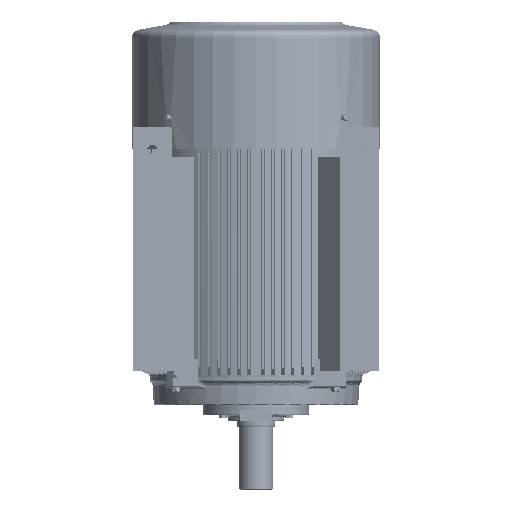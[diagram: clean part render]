
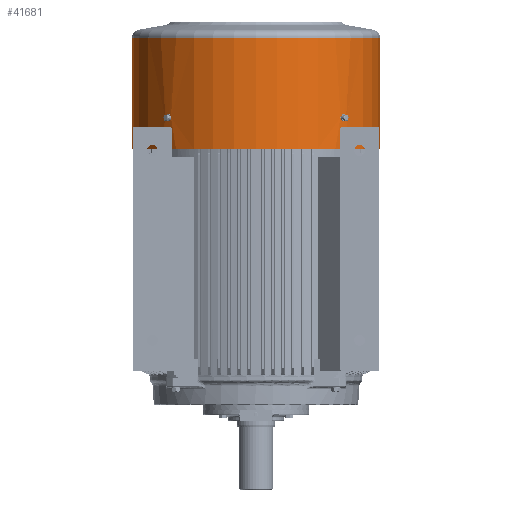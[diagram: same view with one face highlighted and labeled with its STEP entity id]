
A CAD part, left-side view. The second image highlights one B-rep face of the part: STEP entity #41681.
In plain terms, the highlighted cylindrical face has radius 273.5 mm (diameter 547 mm), a partial arc.
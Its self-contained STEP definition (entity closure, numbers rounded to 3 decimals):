
#1508=FACE_BOUND('',#62247,.T.);
#1509=FACE_BOUND('',#62248,.T.);
#1510=FACE_BOUND('',#62249,.T.);
#33891=B_SPLINE_CURVE_WITH_KNOTS('',3,(#332566,#332567,#332568,#332569,
#332570,#332571),.UNSPECIFIED.,.F.,.F.,(4,2,4),(0.,0.5,1.),
 .UNSPECIFIED.);
#33895=B_SPLINE_CURVE_WITH_KNOTS('',3,(#332604,#332605,#332606,#332607,
#332608,#332609),.UNSPECIFIED.,.F.,.F.,(4,2,4),(0.,0.5,1.),
 .UNSPECIFIED.);
#33989=B_SPLINE_CURVE_WITH_KNOTS('',3,(#333734,#333735,#333736,#333737,
#333738,#333739,#333740,#333741,#333742,#333743),.UNSPECIFIED.,.F.,.F.,
(4,2,2,2,4),(0.,0.25,0.5,0.75,1.),.UNSPECIFIED.);
#33990=B_SPLINE_CURVE_WITH_KNOTS('',3,(#333747,#333748,#333749,#333750,
#333751,#333752),.UNSPECIFIED.,.F.,.F.,(4,2,4),(0.,0.5,1.),
 .UNSPECIFIED.);
#33991=B_SPLINE_CURVE_WITH_KNOTS('',3,(#333755,#333756,#333757,#333758,
#333759,#333760,#333761,#333762,#333763,#333764),.UNSPECIFIED.,.F.,.F.,
(4,2,2,2,4),(0.,0.25,0.5,0.75,1.),.UNSPECIFIED.);
#33992=B_SPLINE_CURVE_WITH_KNOTS('',3,(#333768,#333769,#333770,#333771,
#333772,#333773),.UNSPECIFIED.,.F.,.F.,(4,2,4),(0.,0.5,1.),
 .UNSPECIFIED.);
#35055=CYLINDRICAL_SURFACE('',#222540,273.5);
#41681=ADVANCED_FACE('',(#1508,#1509,#1510),#35055,.T.);
#62247=EDGE_LOOP('',(#96001,#96002,#96003,#96004,#96005));
#62248=EDGE_LOOP('',(#96006,#96007,#96008,#96009,#96010));
#62249=EDGE_LOOP('',(#96011,#96012,#96013,#96014));
#73377=CIRCLE('',#222486,273.5);
#73422=CIRCLE('',#222535,273.5);
#73423=CIRCLE('',#222536,273.5);
#73424=CIRCLE('',#222537,273.5);
#73425=CIRCLE('',#222538,273.5);
#73426=CIRCLE('',#222539,273.5);
#96001=ORIENTED_EDGE('',*,*,#163327,.F.);
#96002=ORIENTED_EDGE('',*,*,#163524,.F.);
#96003=ORIENTED_EDGE('',*,*,#163525,.F.);
#96004=ORIENTED_EDGE('',*,*,#163526,.F.);
#96005=ORIENTED_EDGE('',*,*,#163527,.F.);
#96006=ORIENTED_EDGE('',*,*,#163528,.T.);
#96007=ORIENTED_EDGE('',*,*,#163529,.T.);
#96008=ORIENTED_EDGE('',*,*,#163530,.T.);
#96009=ORIENTED_EDGE('',*,*,#163531,.T.);
#96010=ORIENTED_EDGE('',*,*,#163335,.T.);
#96011=ORIENTED_EDGE('',*,*,#163385,.T.);
#96012=ORIENTED_EDGE('',*,*,#163532,.F.);
#96013=ORIENTED_EDGE('',*,*,#163533,.F.);
#96014=ORIENTED_EDGE('',*,*,#163534,.T.);
#141868=VERTEX_POINT('',#332572);
#141869=VERTEX_POINT('',#332573);
#141876=VERTEX_POINT('',#332610);
#141877=VERTEX_POINT('',#332611);
#141910=VERTEX_POINT('',#332711);
#141911=VERTEX_POINT('',#332713);
#142044=VERTEX_POINT('',#333733);
#142045=VERTEX_POINT('',#333744);
#142046=VERTEX_POINT('',#333746);
#142047=VERTEX_POINT('',#333754);
#142048=VERTEX_POINT('',#333765);
#142049=VERTEX_POINT('',#333767);
#142050=VERTEX_POINT('',#333775);
#142051=VERTEX_POINT('',#333777);
#163327=EDGE_CURVE('',#141868,#141869,#33891,.T.);
#163335=EDGE_CURVE('',#141876,#141877,#33895,.T.);
#163385=EDGE_CURVE('',#141911,#141910,#73377,.T.);
#163524=EDGE_CURVE('',#142044,#141868,#73422,.T.);
#163525=EDGE_CURVE('',#142045,#142044,#33989,.T.);
#163526=EDGE_CURVE('',#142046,#142045,#73423,.T.);
#163527=EDGE_CURVE('',#141869,#142046,#33990,.T.);
#163528=EDGE_CURVE('',#141877,#142047,#73424,.T.);
#163529=EDGE_CURVE('',#142047,#142048,#33991,.T.);
#163530=EDGE_CURVE('',#142048,#142049,#73425,.T.);
#163531=EDGE_CURVE('',#142049,#141876,#33992,.T.);
#163532=EDGE_CURVE('',#142050,#141910,#186823,.T.);
#163533=EDGE_CURVE('',#142051,#142050,#73426,.T.);
#163534=EDGE_CURVE('',#142051,#141911,#186824,.T.);
#186823=LINE('',#333774,#203275);
#186824=LINE('',#333778,#203276);
#203275=VECTOR('',#250705,1.);
#203276=VECTOR('',#250708,1.);
#222486=AXIS2_PLACEMENT_3D('',#332712,#250597,#250598);
#222535=AXIS2_PLACEMENT_3D('',#333732,#250697,#250698);
#222536=AXIS2_PLACEMENT_3D('',#333745,#250699,#250700);
#222537=AXIS2_PLACEMENT_3D('',#333753,#250701,#250702);
#222538=AXIS2_PLACEMENT_3D('',#333766,#250703,#250704);
#222539=AXIS2_PLACEMENT_3D('',#333776,#250706,#250707);
#222540=AXIS2_PLACEMENT_3D('',#333779,#250709,#250710);
#250597=DIRECTION('',(0.,0.,-1.));
#250598=DIRECTION('',(-0.003,-1.,0.));
#250697=DIRECTION('',(0.,0.,1.));
#250698=DIRECTION('',(0.003,1.,0.));
#250699=DIRECTION('',(0.,0.,-1.));
#250700=DIRECTION('',(-0.003,-1.,0.));
#250701=DIRECTION('',(0.,0.,-1.));
#250702=DIRECTION('',(-0.003,-1.,0.));
#250703=DIRECTION('',(0.,0.,1.));
#250704=DIRECTION('',(0.003,1.,0.));
#250705=DIRECTION('',(0.,0.,1.));
#250706=DIRECTION('',(0.,0.,-1.));
#250707=DIRECTION('',(-0.003,-1.,0.));
#250708=DIRECTION('',(0.,0.,1.));
#250709=DIRECTION('',(0.,0.,-1.));
#250710=DIRECTION('',(0.003,1.,0.));
#332566=CARTESIAN_POINT('',(9.092,494.087,728.544));
#332567=CARTESIAN_POINT('',(8.169,493.143,728.544));
#332568=CARTESIAN_POINT('',(7.274,492.212,729.086));
#332569=CARTESIAN_POINT('',(6.001,490.875,730.929));
#332570=CARTESIAN_POINT('',(5.629,490.479,732.224));
#332571=CARTESIAN_POINT('',(5.629,490.479,733.544));
#332572=CARTESIAN_POINT('',(9.092,494.087,728.544));
#332573=CARTESIAN_POINT('',(5.629,490.479,733.544));
#332604=CARTESIAN_POINT('',(17.098,103.861,733.544));
#332605=CARTESIAN_POINT('',(17.098,103.861,732.224));
#332606=CARTESIAN_POINT('',(16.703,104.232,730.932));
#332607=CARTESIAN_POINT('',(15.367,105.504,729.088));
#332608=CARTESIAN_POINT('',(14.434,106.401,728.544));
#332609=CARTESIAN_POINT('',(13.489,107.325,728.544));
#332610=CARTESIAN_POINT('',(17.098,103.861,733.544));
#332611=CARTESIAN_POINT('',(13.489,107.325,728.544));
#332711=CARTESIAN_POINT('',(205.563,576.403,909.758));
#332712=CARTESIAN_POINT('',(204.672,302.904,909.758));
#332713=CARTESIAN_POINT('',(203.781,29.406,909.758));
#333732=CARTESIAN_POINT('',(204.672,302.904,728.544));
#333733=CARTESIAN_POINT('',(14.768,499.726,728.544));
#333734=CARTESIAN_POINT('',(14.768,499.726,738.544));
#333735=CARTESIAN_POINT('',(15.718,500.643,738.544));
#333736=CARTESIAN_POINT('',(16.656,501.532,738.003));
#333737=CARTESIAN_POINT('',(18.,502.797,736.158));
#333738=CARTESIAN_POINT('',(18.398,503.165,734.852));
#333739=CARTESIAN_POINT('',(18.399,503.166,732.244));
#333740=CARTESIAN_POINT('',(18.01,502.805,730.945));
#333741=CARTESIAN_POINT('',(16.65,501.527,729.078));
#333742=CARTESIAN_POINT('',(15.718,500.643,728.544));
#333743=CARTESIAN_POINT('',(14.768,499.726,728.544));
#333744=CARTESIAN_POINT('',(14.768,499.726,738.544));
#333745=CARTESIAN_POINT('',(204.672,302.904,738.544));
#333746=CARTESIAN_POINT('',(9.092,494.087,738.544));
#333747=CARTESIAN_POINT('',(5.629,490.479,733.544));
#333748=CARTESIAN_POINT('',(5.629,490.479,734.865));
#333749=CARTESIAN_POINT('',(6.,490.874,736.157));
#333750=CARTESIAN_POINT('',(7.272,492.209,738.001));
#333751=CARTESIAN_POINT('',(8.169,493.143,738.544));
#333752=CARTESIAN_POINT('',(9.092,494.087,738.544));
#333753=CARTESIAN_POINT('',(204.672,302.904,728.544));
#333754=CARTESIAN_POINT('',(7.851,113.,728.544));
#333755=CARTESIAN_POINT('',(7.851,113.,728.544));
#333756=CARTESIAN_POINT('',(6.933,113.951,728.544));
#333757=CARTESIAN_POINT('',(6.044,114.888,729.086));
#333758=CARTESIAN_POINT('',(4.78,116.233,730.931));
#333759=CARTESIAN_POINT('',(4.412,116.63,732.237));
#333760=CARTESIAN_POINT('',(4.411,116.631,734.845));
#333761=CARTESIAN_POINT('',(4.771,116.242,736.144));
#333762=CARTESIAN_POINT('',(6.049,114.883,738.011));
#333763=CARTESIAN_POINT('',(6.933,113.951,738.544));
#333764=CARTESIAN_POINT('',(7.851,113.,738.544));
#333765=CARTESIAN_POINT('',(7.851,113.,738.544));
#333766=CARTESIAN_POINT('',(204.672,302.904,738.544));
#333767=CARTESIAN_POINT('',(13.489,107.325,738.544));
#333768=CARTESIAN_POINT('',(13.489,107.325,738.544));
#333769=CARTESIAN_POINT('',(14.434,106.401,738.544));
#333770=CARTESIAN_POINT('',(15.365,105.507,738.003));
#333771=CARTESIAN_POINT('',(16.701,104.234,736.16));
#333772=CARTESIAN_POINT('',(17.098,103.861,734.865));
#333773=CARTESIAN_POINT('',(17.098,103.861,733.544));
#333774=CARTESIAN_POINT('',(205.563,576.403,949.765));
#333775=CARTESIAN_POINT('',(205.563,576.403,664.544));
#333776=CARTESIAN_POINT('',(204.672,302.904,664.544));
#333777=CARTESIAN_POINT('',(203.781,29.406,664.544));
#333778=CARTESIAN_POINT('',(203.781,29.406,949.765));
#333779=CARTESIAN_POINT('',(204.672,302.904,949.765));
